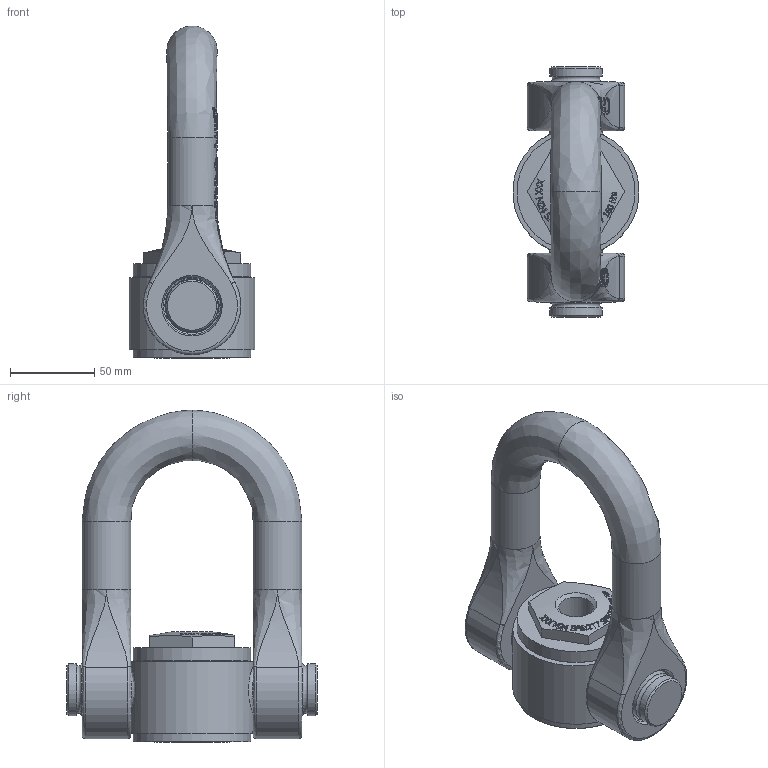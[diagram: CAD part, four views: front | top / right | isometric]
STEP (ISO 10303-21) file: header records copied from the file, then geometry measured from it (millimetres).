
FILE_DESCRIPTION(/* description */ (''),/* implementation_level */ '2;1');
FILE_NAME(/* name */ 'W:\CODIPRO\DOCUMENTS\Plans A NE PAS DIFFUSER !!!\Fichiers STEP\Gamme 2018\Produits NON GRADUP\SS FE DSS\SS FE DSS M24.stp',/* time_stamp */ '2017-10-06T14:38:33+02:00',/* author */ ('rklenes'),/* organization */ (''),/* preprocessor_version */ 'ST-DEVELOPER v16.5',/* originating_system */ 'Autodesk Inventor 2017',/* authorisation */ '');
FILE_SCHEMA (('AUTOMOTIVE_DESIGN { 1 0 10303 214 3 1 1 }'));
Length unit declared in the file: millimetre
Products named in the file (5): SS DSS M24; DSM_N3; SS_FE_DSA_M24; DSM_N3X51; DSE_M45A
Assembly tree (4 placements, depth 2):
  SS DSS M24
    DSM_N3
    SS_FE_DSA_M24
    DSM_N3X51
    DSE_M45A
Bounding box: 74.72 x 148.5 x 197 mm (x, y, z)
Volume: 613263.8 mm3; surface area: 117989.6 mm2
Topology: 4 solids, 4 shells, 808 faces, 2243 edges, 1491 vertices
Faces by surface type: plane 376, bspline 300, cylinder 68, sphere 28, cone 23, torus 13
Full cylindrical faces by diameter (mm): 20.752 x1, 29 x2, 31 x4, 32.25 x2, 45 x3, 45.2 x1, 50.7 x2, 51 x3, 70 x2
Entity records: 32008 total; most frequent: CARTESIAN_POINT 12869, ORIENTED_EDGE 4366, DIRECTION 3260, EDGE_CURVE 2183, VERTEX_POINT 1481, AXIS2_PLACEMENT_3D 1255, EDGE_LOOP 916, FACE_OUTER_BOUND 808
